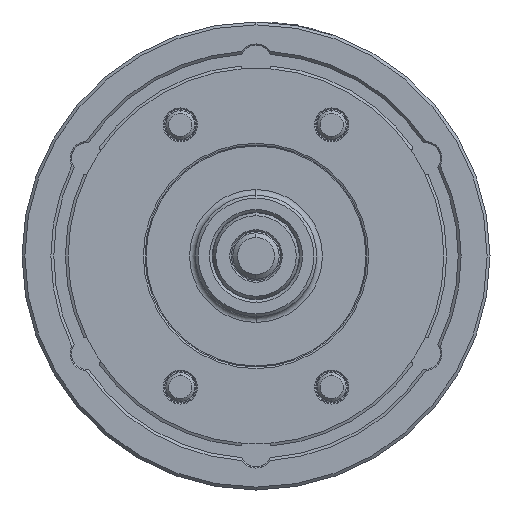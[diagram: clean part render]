
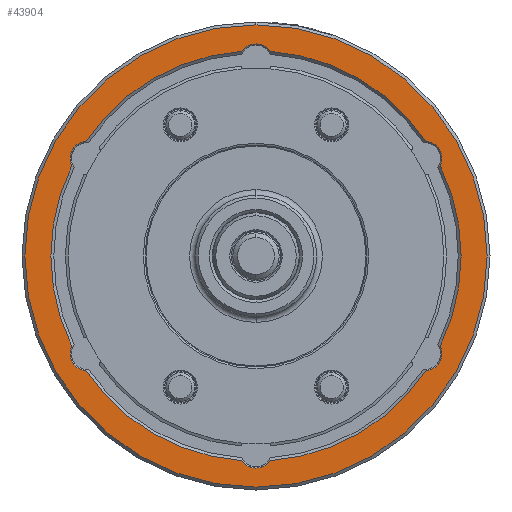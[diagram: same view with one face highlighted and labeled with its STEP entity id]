
A CAD part, left-side view. The second image highlights one B-rep face of the part: STEP entity #43904.
In plain terms, the highlighted planar face has unit normal (-1, 0, 0).
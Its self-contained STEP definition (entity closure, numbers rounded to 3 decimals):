
#105 = ORIENTED_EDGE ( 'NONE', *, *, #31541, .F. ) ;
#594 = AXIS2_PLACEMENT_3D ( 'NONE', #49247, #25302, #1361 ) ;
#1361 = DIRECTION ( 'NONE',  ( 0., 0., -1. ) ) ;
#1586 = ORIENTED_EDGE ( 'NONE', *, *, #21862, .T. ) ;
#1765 = CIRCLE ( 'NONE', #25533, 5.9 ) ;
#2008 = DIRECTION ( 'NONE',  ( -1., 0., 0. ) ) ;
#2180 = DIRECTION ( 'NONE',  ( -1., 0., 0. ) ) ;
#2243 = CIRCLE ( 'NONE', #594, 71. ) ;
#2678 = CARTESIAN_POINT ( 'NONE',  ( -77., 0., -80. ) ) ;
#3164 = CARTESIAN_POINT ( 'NONE',  ( -77., 4.868, 70.833 ) ) ;
#4036 = EDGE_CURVE ( 'NONE', #29093, #29077, #22441, .T. ) ;
#4158 = AXIS2_PLACEMENT_3D ( 'NONE', #7133, #35167, #11181 ) ;
#4273 = ORIENTED_EDGE ( 'NONE', *, *, #46663, .T. ) ;
#4507 = VERTEX_POINT ( 'NONE', #36184 ) ;
#4673 = VERTEX_POINT ( 'NONE', #29128 ) ;
#4808 = AXIS2_PLACEMENT_3D ( 'NONE', #25976, #2008, #30030 ) ;
#4861 = EDGE_CURVE ( 'NONE', #28851, #11853, #38710, .T. ) ;
#5243 = DIRECTION ( 'NONE',  ( -1., 0., 0. ) ) ;
#6230 = EDGE_CURVE ( 'NONE', #25412, #4673, #29182, .T. ) ;
#7057 = EDGE_CURVE ( 'NONE', #4507, #49362, #42889, .T. ) ;
#7085 = CARTESIAN_POINT ( 'NONE',  ( -77., -63.777, 31.2 ) ) ;
#7133 = CARTESIAN_POINT ( 'NONE',  ( -77., 0., 0. ) ) ;
#7581 = ORIENTED_EDGE ( 'NONE', *, *, #40593, .F. ) ;
#7894 = ORIENTED_EDGE ( 'NONE', *, *, #6230, .F. ) ;
#7939 = EDGE_CURVE ( 'NONE', #23277, #29077, #44011, .T. ) ;
#7989 = EDGE_CURVE ( 'NONE', #25412, #11853, #22704, .T. ) ;
#8528 = AXIS2_PLACEMENT_3D ( 'NONE', #21038, #21023, #20909 ) ;
#8650 = CARTESIAN_POINT ( 'NONE',  ( -77., -4.868, -70.833 ) ) ;
#8661 = ORIENTED_EDGE ( 'NONE', *, *, #7989, .T. ) ;
#10555 = CARTESIAN_POINT ( 'NONE',  ( -77., 58.457, -33.75 ) ) ;
#10916 = AXIS2_PLACEMENT_3D ( 'NONE', #12737, #40748, #16755 ) ;
#11181 = DIRECTION ( 'NONE',  ( 0., 0., -1. ) ) ;
#11663 = DIRECTION ( 'NONE',  ( 0., 0., -1. ) ) ;
#11674 = DIRECTION ( 'NONE',  ( 1., 0., 0. ) ) ;
#11782 = CARTESIAN_POINT ( 'NONE',  ( -77., 0., 0. ) ) ;
#11853 = VERTEX_POINT ( 'NONE', #3164 ) ;
#12737 = CARTESIAN_POINT ( 'NONE',  ( -77., 80., 0. ) ) ;
#12740 = CARTESIAN_POINT ( 'NONE',  ( -77., 0., 0. ) ) ;
#12778 = CARTESIAN_POINT ( 'NONE',  ( -77., 58.909, -39.633 ) ) ;
#13388 = ORIENTED_EDGE ( 'NONE', *, *, #39428, .F. ) ;
#13999 = CARTESIAN_POINT ( 'NONE',  ( -77., 0., 73.4 ) ) ;
#14025 = CIRCLE ( 'NONE', #27887, 71. ) ;
#14586 = DIRECTION ( 'NONE',  ( 0., 0., 1. ) ) ;
#15175 = CARTESIAN_POINT ( 'NONE',  ( -77., 63.777, -31.2 ) ) ;
#16697 = ORIENTED_EDGE ( 'NONE', *, *, #4861, .F. ) ;
#16755 = DIRECTION ( 'NONE',  ( 0., 0., 1. ) ) ;
#16756 = DIRECTION ( 'NONE',  ( 0., 0., -1. ) ) ;
#16760 = EDGE_CURVE ( 'NONE', #49362, #4507, #17004, .T. ) ;
#17004 = CIRCLE ( 'NONE', #35327, 80. ) ;
#17460 = CARTESIAN_POINT ( 'NONE',  ( -77., -58.909, 39.633 ) ) ;
#17566 = CARTESIAN_POINT ( 'NONE',  ( -77., 0., 0. ) ) ;
#18604 = FACE_OUTER_BOUND ( 'NONE', #44525, .T. ) ;
#19278 = EDGE_LOOP ( 'NONE', ( #13388, #25384, #40615, #1586, #37106, #44667, #7581, #47814, #7894, #8661, #16697, #105, #4273 ) ) ;
#19568 = AXIS2_PLACEMENT_3D ( 'NONE', #12740, #40750, #16756 ) ;
#20697 = VERTEX_POINT ( 'NONE', #8650 ) ;
#20714 = DIRECTION ( 'NONE',  ( 1., 0., 0. ) ) ;
#20909 = DIRECTION ( 'NONE',  ( 0., 0., 1. ) ) ;
#21023 = DIRECTION ( 'NONE',  ( -1., 0., 0. ) ) ;
#21038 = CARTESIAN_POINT ( 'NONE',  ( -77., 0., 67.5 ) ) ;
#21048 = CIRCLE ( 'NONE', #4808, 5.9 ) ;
#21151 = AXIS2_PLACEMENT_3D ( 'NONE', #26131, #2180, #30179 ) ;
#21604 = DIRECTION ( 'NONE',  ( 0., 0., -1. ) ) ;
#21862 = EDGE_CURVE ( 'NONE', #29093, #20697, #2243, .T. ) ;
#22441 = CIRCLE ( 'NONE', #33007, 5.9 ) ;
#22704 = CIRCLE ( 'NONE', #46150, 71. ) ;
#23277 = VERTEX_POINT ( 'NONE', #7085 ) ;
#23685 = CIRCLE ( 'NONE', #21151, 5.9 ) ;
#25302 = DIRECTION ( 'NONE',  ( 1., 0., 0. ) ) ;
#25384 = ORIENTED_EDGE ( 'NONE', *, *, #7939, .T. ) ;
#25412 = VERTEX_POINT ( 'NONE', #50934 ) ;
#25533 = AXIS2_PLACEMENT_3D ( 'NONE', #29245, #5243, #33274 ) ;
#25976 = CARTESIAN_POINT ( 'NONE',  ( -77., 0., 67.5 ) ) ;
#26100 = CIRCLE ( 'NONE', #50319, 5.9 ) ;
#26131 = CARTESIAN_POINT ( 'NONE',  ( -77., -58.457, 33.75 ) ) ;
#27887 = AXIS2_PLACEMENT_3D ( 'NONE', #44718, #20714, #48724 ) ;
#28710 = CARTESIAN_POINT ( 'NONE',  ( -77., -58.909, -39.633 ) ) ;
#28851 = VERTEX_POINT ( 'NONE', #13999 ) ;
#29077 = VERTEX_POINT ( 'NONE', #48631 ) ;
#29093 = VERTEX_POINT ( 'NONE', #28710 ) ;
#29128 = CARTESIAN_POINT ( 'NONE',  ( -77., 63.777, 31.2 ) ) ;
#29182 = CIRCLE ( 'NONE', #35073, 5.9 ) ;
#29245 = CARTESIAN_POINT ( 'NONE',  ( -77., 0., -67.5 ) ) ;
#30030 = DIRECTION ( 'NONE',  ( 0., 0., 1. ) ) ;
#30179 = DIRECTION ( 'NONE',  ( 0., 0., 1. ) ) ;
#30806 = EDGE_CURVE ( 'NONE', #49714, #34868, #33049, .T. ) ;
#31541 = EDGE_CURVE ( 'NONE', #41005, #28851, #21048, .T. ) ;
#31671 = ORIENTED_EDGE ( 'NONE', *, *, #7057, .F. ) ;
#32248 = VERTEX_POINT ( 'NONE', #15175 ) ;
#33007 = AXIS2_PLACEMENT_3D ( 'NONE', #50318, #50257, #50249 ) ;
#33049 = CIRCLE ( 'NONE', #4158, 71. ) ;
#33274 = DIRECTION ( 'NONE',  ( 0., 0., 1. ) ) ;
#34557 = ORIENTED_EDGE ( 'NONE', *, *, #16760, .F. ) ;
#34868 = VERTEX_POINT ( 'NONE', #12778 ) ;
#35073 = AXIS2_PLACEMENT_3D ( 'NONE', #44762, #44720, #44661 ) ;
#35167 = DIRECTION ( 'NONE',  ( 1., 0., 0. ) ) ;
#35327 = AXIS2_PLACEMENT_3D ( 'NONE', #17566, #45573, #21604 ) ;
#36184 = CARTESIAN_POINT ( 'NONE',  ( -77., 0., 80. ) ) ;
#37106 = ORIENTED_EDGE ( 'NONE', *, *, #39787, .F. ) ;
#38597 = DIRECTION ( 'NONE',  ( -1., 0., 0. ) ) ;
#38710 = CIRCLE ( 'NONE', #8528, 5.9 ) ;
#39428 = EDGE_CURVE ( 'NONE', #23277, #48432, #23685, .T. ) ;
#39787 = EDGE_CURVE ( 'NONE', #49714, #20697, #1765, .T. ) ;
#40591 = PLANE ( 'NONE',  #10916 ) ;
#40593 = EDGE_CURVE ( 'NONE', #32248, #34868, #26100, .T. ) ;
#40615 = ORIENTED_EDGE ( 'NONE', *, *, #4036, .F. ) ;
#40739 = CIRCLE ( 'NONE', #19568, 71. ) ;
#40748 = DIRECTION ( 'NONE',  ( -1., 0., 0. ) ) ;
#40750 = DIRECTION ( 'NONE',  ( 1., 0., 0. ) ) ;
#40811 = AXIS2_PLACEMENT_3D ( 'NONE', #46845, #46797, #46782 ) ;
#41005 = VERTEX_POINT ( 'NONE', #50514 ) ;
#42889 = CIRCLE ( 'NONE', #49112, 80. ) ;
#43904 = ADVANCED_FACE ( 'NONE', ( #49257, #18604 ), #40591, .T. ) ;
#44011 = CIRCLE ( 'NONE', #40811, 71. ) ;
#44525 = EDGE_LOOP ( 'NONE', ( #34557, #31671 ) ) ;
#44661 = DIRECTION ( 'NONE',  ( 0., 0., 1. ) ) ;
#44667 = ORIENTED_EDGE ( 'NONE', *, *, #30806, .T. ) ;
#44718 = CARTESIAN_POINT ( 'NONE',  ( -77., 0., 0. ) ) ;
#44720 = DIRECTION ( 'NONE',  ( -1., 0., 0. ) ) ;
#44762 = CARTESIAN_POINT ( 'NONE',  ( -77., 58.457, 33.75 ) ) ;
#45573 = DIRECTION ( 'NONE',  ( 1., 0., 0. ) ) ;
#45968 = DIRECTION ( 'NONE',  ( 0., 0., -1. ) ) ;
#46036 = DIRECTION ( 'NONE',  ( 1., 0., 0. ) ) ;
#46093 = CARTESIAN_POINT ( 'NONE',  ( -77., 0., 0. ) ) ;
#46150 = AXIS2_PLACEMENT_3D ( 'NONE', #46093, #46036, #45968 ) ;
#46663 = EDGE_CURVE ( 'NONE', #41005, #48432, #14025, .T. ) ;
#46782 = DIRECTION ( 'NONE',  ( 0., 0., -1. ) ) ;
#46797 = DIRECTION ( 'NONE',  ( 1., 0., 0. ) ) ;
#46845 = CARTESIAN_POINT ( 'NONE',  ( -77., 0., 0. ) ) ;
#47814 = ORIENTED_EDGE ( 'NONE', *, *, #50315, .T. ) ;
#48166 = CARTESIAN_POINT ( 'NONE',  ( -77., 4.868, -70.833 ) ) ;
#48432 = VERTEX_POINT ( 'NONE', #17460 ) ;
#48631 = CARTESIAN_POINT ( 'NONE',  ( -77., -63.777, -31.2 ) ) ;
#48724 = DIRECTION ( 'NONE',  ( 0., 0., -1. ) ) ;
#49112 = AXIS2_PLACEMENT_3D ( 'NONE', #11782, #11674, #11663 ) ;
#49247 = CARTESIAN_POINT ( 'NONE',  ( -77., 0., 0. ) ) ;
#49257 = FACE_BOUND ( 'NONE', #19278, .T. ) ;
#49362 = VERTEX_POINT ( 'NONE', #2678 ) ;
#49714 = VERTEX_POINT ( 'NONE', #48166 ) ;
#50249 = DIRECTION ( 'NONE',  ( 0., 0., 1. ) ) ;
#50257 = DIRECTION ( 'NONE',  ( -1., 0., 0. ) ) ;
#50315 = EDGE_CURVE ( 'NONE', #32248, #4673, #40739, .T. ) ;
#50318 = CARTESIAN_POINT ( 'NONE',  ( -77., -58.457, -33.75 ) ) ;
#50319 = AXIS2_PLACEMENT_3D ( 'NONE', #10555, #38597, #14586 ) ;
#50514 = CARTESIAN_POINT ( 'NONE',  ( -77., -4.868, 70.833 ) ) ;
#50934 = CARTESIAN_POINT ( 'NONE',  ( -77., 58.909, 39.633 ) ) ;
